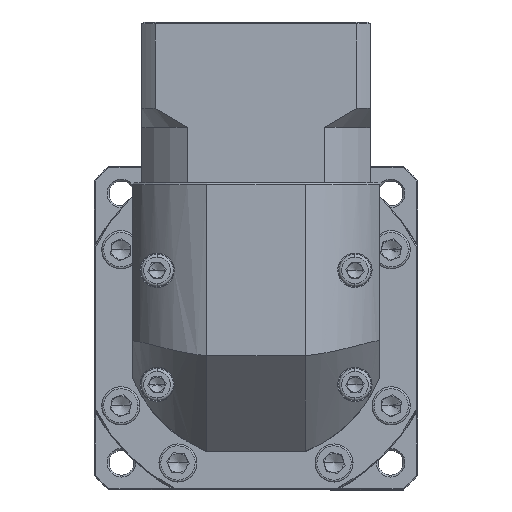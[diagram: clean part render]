
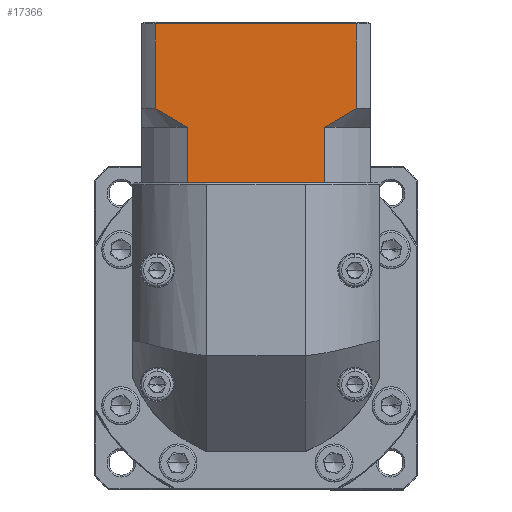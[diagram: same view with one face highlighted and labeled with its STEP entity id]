
A CAD part, top view. The second image highlights one B-rep face of the part: STEP entity #17366.
In plain terms, the highlighted planar face has unit normal (0, 0, 1).
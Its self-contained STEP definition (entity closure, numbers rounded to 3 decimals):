
#3094 = DIRECTION ( 'NONE',  ( 0., 1., 0. ) ) ;
#3475 = CARTESIAN_POINT ( 'NONE',  ( -63.358, 64.098, 55.04 ) ) ;
#6920 = EDGE_CURVE ( 'NONE', #137433, #122958, #27420, .T. ) ;
#9878 = VERTEX_POINT ( 'NONE', #147777 ) ;
#10475 = ORIENTED_EDGE ( 'NONE', *, *, #27851, .T. ) ;
#10785 = CARTESIAN_POINT ( 'NONE',  ( -57.671, 81.823, 55.04 ) ) ;
#12683 = DIRECTION ( 'NONE',  ( 0., 1., 0. ) ) ;
#13857 = CARTESIAN_POINT ( 'NONE',  ( -107.843, 105.798, 55.04 ) ) ;
#15841 = ORIENTED_EDGE ( 'NONE', *, *, #6920, .F. ) ;
#17366 = ADVANCED_FACE ( 'NONE', ( #26099 ), #75745, .F. ) ;
#18809 = DIRECTION ( 'NONE',  ( 1., 0., 0. ) ) ;
#24597 = ORIENTED_EDGE ( 'NONE', *, *, #42963, .T. ) ;
#24616 = CARTESIAN_POINT ( 'NONE',  ( -99.414, 78.598, 55.04 ) ) ;
#25784 = CARTESIAN_POINT ( 'NONE',  ( -111.386, 105.798, 55.04 ) ) ;
#25856 = VERTEX_POINT ( 'NONE', #128849 ) ;
#26099 = FACE_OUTER_BOUND ( 'NONE', #82751, .T. ) ;
#26199 = EDGE_CURVE ( 'NONE', #9878, #112303, #140350, .T. ) ;
#26641 = LINE ( 'NONE', #122724, #115956 ) ;
#27301 = LINE ( 'NONE', #89553, #53897 ) ;
#27420 = LINE ( 'NONE', #32223, #72998 ) ;
#27851 = EDGE_CURVE ( 'NONE', #25856, #77597, #27301, .T. ) ;
#28975 = ORIENTED_EDGE ( 'NONE', *, *, #112248, .T. ) ;
#32152 = ORIENTED_EDGE ( 'NONE', *, *, #55886, .T. ) ;
#32223 = CARTESIAN_POINT ( 'NONE',  ( -63.358, 78.598, 55.04 ) ) ;
#35130 = VERTEX_POINT ( 'NONE', #157234 ) ;
#39801 = CARTESIAN_POINT ( 'NONE',  ( -54.928, 105.798, 55.04 ) ) ;
#42858 = DIRECTION ( 'NONE',  ( 0., -1., 0. ) ) ;
#42963 = EDGE_CURVE ( 'NONE', #137433, #35130, #85314, .T. ) ;
#46687 = EDGE_CURVE ( 'NONE', #25856, #138332, #58347, .T. ) ;
#46814 = CARTESIAN_POINT ( 'NONE',  ( -107.843, 83.598, 55.04 ) ) ;
#50445 = DIRECTION ( 'NONE',  ( 1., 0., 0. ) ) ;
#50489 = CARTESIAN_POINT ( 'NONE',  ( -100.866, 79.346, 55.04 ) ) ;
#53316 = CARTESIAN_POINT ( 'NONE',  ( -98.423, 64.098, 55.04 ) ) ;
#53897 = VECTOR ( 'NONE', #63568, 1000. ) ;
#55886 = EDGE_CURVE ( 'NONE', #77597, #105474, #139762, .T. ) ;
#58347 = LINE ( 'NONE', #121562, #155310 ) ;
#59554 = CARTESIAN_POINT ( 'NONE',  ( -106.483, 82.699, 55.04 ) ) ;
#61215 = CARTESIAN_POINT ( 'NONE',  ( -60.476, 80.149, 55.04 ) ) ;
#63568 = DIRECTION ( 'NONE',  ( 1., 0., 0. ) ) ;
#64648 = CARTESIAN_POINT ( 'NONE',  ( -107.843, 78.598, 55.04 ) ) ;
#65048 = DIRECTION ( 'NONE',  ( 0., 0., -1. ) ) ;
#69772 = EDGE_CURVE ( 'NONE', #140873, #112303, #139689, .T. ) ;
#72998 = VECTOR ( 'NONE', #42858, 1000. ) ;
#75745 = PLANE ( 'NONE',  #125399 ) ;
#77045 = VECTOR ( 'NONE', #146376, 1000. ) ;
#77597 = VERTEX_POINT ( 'NONE', #53316 ) ;
#81732 = ORIENTED_EDGE ( 'NONE', *, *, #69772, .T. ) ;
#82751 = EDGE_LOOP ( 'NONE', ( #119855, #81732, #84745, #135220, #123155, #10475, #32152, #28975, #15841, #24597 ) ) ;
#84745 = ORIENTED_EDGE ( 'NONE', *, *, #26199, .F. ) ;
#85034 = EDGE_CURVE ( 'NONE', #140873, #35130, #147082, .T. ) ;
#85314 = B_SPLINE_CURVE_WITH_KNOTS ( 'NONE', 3,
 ( #155799, #120775, #61215, #10785, #109601, #121803 ),
 .UNSPECIFIED., .F., .F.,
 ( 4, 2, 4 ),
 ( 0.1, 0.104, 0.109 ),
 .UNSPECIFIED. ) ;
#89553 = CARTESIAN_POINT ( 'NONE',  ( -111.386, 64.098, 55.04 ) ) ;
#96236 = CARTESIAN_POINT ( 'NONE',  ( -54.928, 78.598, 55.04 ) ) ;
#105474 = VERTEX_POINT ( 'NONE', #115913 ) ;
#107901 = VECTOR ( 'NONE', #3094, 1000. ) ;
#109601 = CARTESIAN_POINT ( 'NONE',  ( -56.291, 82.697, 55.04 ) ) ;
#110483 = B_SPLINE_CURVE_WITH_KNOTS ( 'NONE', 3,
 ( #46814, #59554, #147206, #147716, #50489, #111635 ),
 .UNSPECIFIED., .F., .F.,
 ( 4, 2, 4 ),
 ( 0.052, 0.057, 0.062 ),
 .UNSPECIFIED. ) ;
#111635 = CARTESIAN_POINT ( 'NONE',  ( -99.414, 78.598, 55.04 ) ) ;
#112248 = EDGE_CURVE ( 'NONE', #105474, #122958, #26641, .T. ) ;
#112303 = VERTEX_POINT ( 'NONE', #13857 ) ;
#115913 = CARTESIAN_POINT ( 'NONE',  ( -64.349, 64.098, 55.04 ) ) ;
#115956 = VECTOR ( 'NONE', #50445, 1000. ) ;
#116753 = VECTOR ( 'NONE', #131213, 1000. ) ;
#119855 = ORIENTED_EDGE ( 'NONE', *, *, #85034, .F. ) ;
#120769 = VECTOR ( 'NONE', #18809, 1000. ) ;
#120775 = CARTESIAN_POINT ( 'NONE',  ( -61.902, 79.349, 55.04 ) ) ;
#121562 = CARTESIAN_POINT ( 'NONE',  ( -99.414, 78.598, 55.04 ) ) ;
#121803 = CARTESIAN_POINT ( 'NONE',  ( -54.928, 83.598, 55.04 ) ) ;
#122724 = CARTESIAN_POINT ( 'NONE',  ( -111.386, 64.098, 55.04 ) ) ;
#122958 = VERTEX_POINT ( 'NONE', #3475 ) ;
#123155 = ORIENTED_EDGE ( 'NONE', *, *, #46687, .F. ) ;
#125399 = AXIS2_PLACEMENT_3D ( 'NONE', #136270, #65048, #150050 ) ;
#128849 = CARTESIAN_POINT ( 'NONE',  ( -99.414, 64.098, 55.04 ) ) ;
#130200 = EDGE_CURVE ( 'NONE', #9878, #138332, #110483, .T. ) ;
#131213 = DIRECTION ( 'NONE',  ( 0., -1., 0. ) ) ;
#135220 = ORIENTED_EDGE ( 'NONE', *, *, #130200, .T. ) ;
#136270 = CARTESIAN_POINT ( 'NONE',  ( -111.386, 106.298, 55.04 ) ) ;
#137433 = VERTEX_POINT ( 'NONE', #149546 ) ;
#138332 = VERTEX_POINT ( 'NONE', #24616 ) ;
#138801 = CARTESIAN_POINT ( 'NONE',  ( -111.386, 64.098, 55.04 ) ) ;
#139689 = LINE ( 'NONE', #25784, #77045 ) ;
#139762 = LINE ( 'NONE', #138801, #120769 ) ;
#140350 = LINE ( 'NONE', #64648, #107901 ) ;
#140873 = VERTEX_POINT ( 'NONE', #39801 ) ;
#146376 = DIRECTION ( 'NONE',  ( -1., 0., 0. ) ) ;
#147082 = LINE ( 'NONE', #96236, #116753 ) ;
#147206 = CARTESIAN_POINT ( 'NONE',  ( -105.105, 81.826, 55.04 ) ) ;
#147716 = CARTESIAN_POINT ( 'NONE',  ( -102.297, 80.15, 55.04 ) ) ;
#147777 = CARTESIAN_POINT ( 'NONE',  ( -107.843, 83.598, 55.04 ) ) ;
#149546 = CARTESIAN_POINT ( 'NONE',  ( -63.358, 78.598, 55.04 ) ) ;
#150050 = DIRECTION ( 'NONE',  ( 0., 1., 0. ) ) ;
#155310 = VECTOR ( 'NONE', #12683, 1000. ) ;
#155799 = CARTESIAN_POINT ( 'NONE',  ( -63.358, 78.598, 55.04 ) ) ;
#157234 = CARTESIAN_POINT ( 'NONE',  ( -54.928, 83.598, 55.04 ) ) ;
